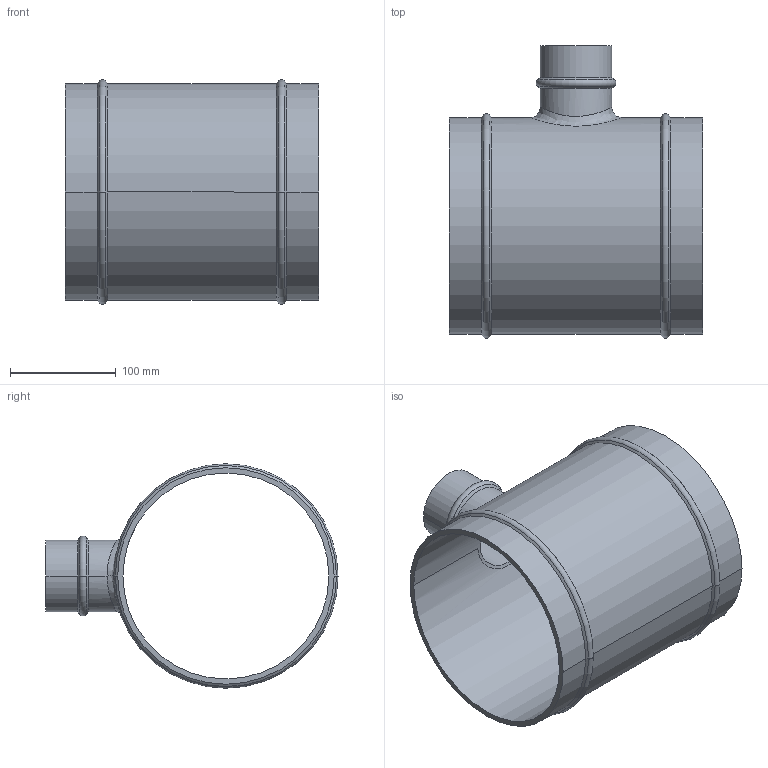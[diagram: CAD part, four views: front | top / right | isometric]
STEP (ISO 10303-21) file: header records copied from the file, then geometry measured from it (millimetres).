
FILE_DESCRIPTION((''),'2;1');
FILE_NAME('2014A60700','2017-05-10T',('Administrator'),(''),'PRO/ENGINEER BY PARAMETRIC TECHNOLOGY CORPORATION, 2009360','PRO/ENGINEER BY PARAMETRIC TECHNOLOGY CORPORATION, 2009360','');
FILE_SCHEMA(('AUTOMOTIVE_DESIGN_CC2 { 1 2 10303 214 -1 1 5 2 }'));
Length unit declared in the file: millimetre
Products named in the file (1): 2014A60700
Bounding box: 239 x 275.99 x 211.97 mm (x, y, z)
Volume: 817764 mm3; surface area: 334088.5 mm2
Topology: 1 solids, 1 shells, 37 faces, 79 edges, 44 vertices
Faces by surface type: cylinder 14, cone 12, torus 6, plane 3, bspline 2
Entity records: 1554 total; most frequent: CARTESIAN_POINT 471, DIRECTION 186, ORIENTED_EDGE 158, PRESENTATION_STYLE_ASSIGNMENT 80, STYLED_ITEM 80, AXIS2_PLACEMENT_3D 79, CURVE_STYLE 79, EDGE_CURVE 79
